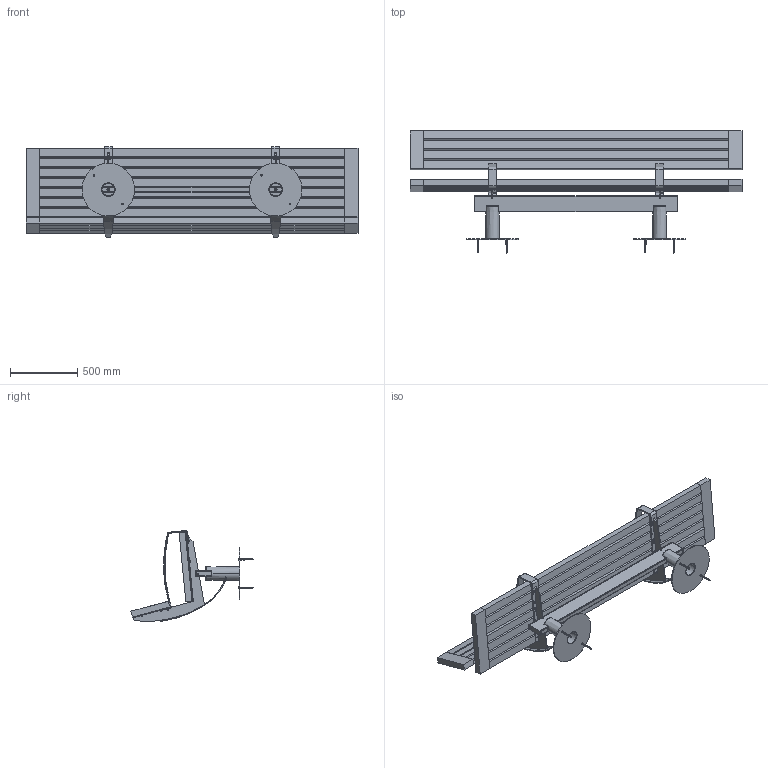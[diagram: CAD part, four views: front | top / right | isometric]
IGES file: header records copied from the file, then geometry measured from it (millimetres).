
Start section: SolidWorks IGES file using analytic representation for surfaces
Global section: file name: C:\SANTACOLE_PDM\Proyectos Catálogo\PROD-P05-013 -- NU\6_Técnico comercial\3D WEB\NU 2.46 con respaldo largo.IGS; native system: SolidWorks 2013; preprocessor: SolidWorks 2013; author: jordi.munoz; date: 150326.184256; units: millimetre
Bounding box: 2460 x 904.41 x 673.2 mm (x, y, z)
Volume: 79599404.6 mm3; surface area: 8886037.4 mm2
Topology: 156 solids, 156 shells, 5561 faces, 14058 edges, 8784 vertices
Faces by surface type: revolution 2745, plane 2528, bspline 288
